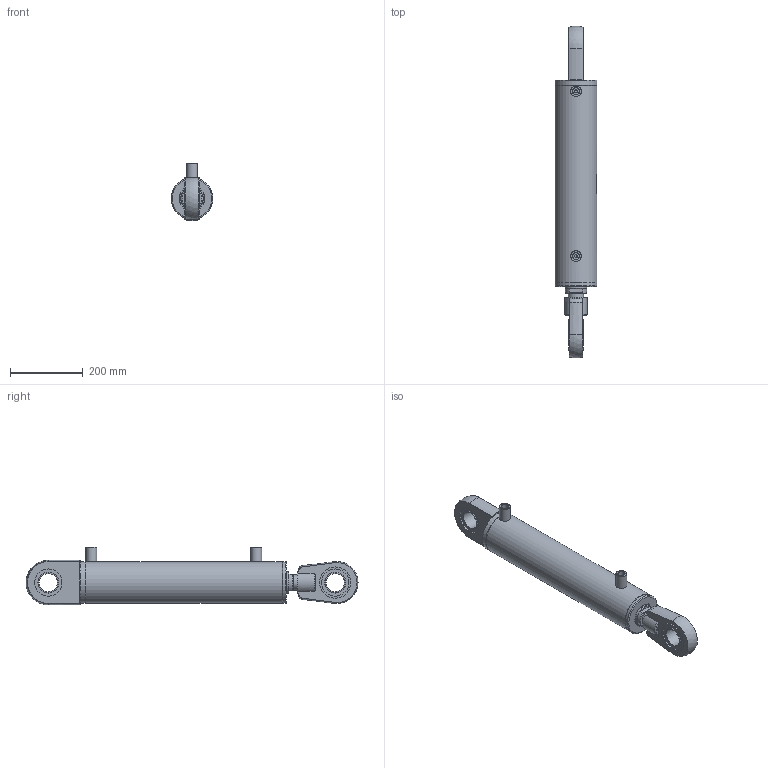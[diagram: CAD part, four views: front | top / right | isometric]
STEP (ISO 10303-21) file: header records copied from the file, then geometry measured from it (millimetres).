
FILE_DESCRIPTION(/* description */ (''),/* implementation_level */ '2;1');
FILE_NAME(/* name */ 'HC_A_100_60_400_AMB_WEB.step',/* time_stamp */ '2023-07-31T14:50:24+03:00',/* author */ (''),/* organization */ (''),/* preprocessor_version */ 'ST-DEVELOPER v20',/* originating_system */ 'Autodesk Translation Framework v12.9.0.99',/* authorisation */ '');
FILE_SCHEMA (('AUTOMOTIVE_DESIGN { 1 0 10303 214 3 1 1 }'));
Length unit declared in the file: millimetre
Products named in the file (20): TRACE_PARTS_MONTAJ; TAK_100_115; TAK_100_115_1; Ø100 x Ø115 _H_BORU; 100X115_H_BORU; Ø60_K_MİL; 60_K_MİL; TDK_100_060; TDK_80_45; K33-060_3; K3-060_3; K06-60X70X5_5X7 (K06_060_5); KO-90X5; Bileşen1; RMK_50; RMV_50; dgihl_50_do; Manşon_1_2; Manşon_1_2_1; MANŞON_1/2
Assembly tree (20 placements, depth 4):
  TRACE_PARTS_MONTAJ
    TAK_100_115
      TAK_100_115_1
    Ø100 x Ø115 _H_BORU
      100X115_H_BORU
    Ø60_K_MİL
      60_K_MİL
    TDK_100_060
      TDK_80_45
      K33-060_3
        K3-060_3
      K06-60X70X5_5X7 (K06_060_5)
      KO-90X5
        Bileşen1
    RMK_50
    RMV_50
      dgihl_50_do
    Manşon_1_2
      MANŞON_1/2
    Manşon_1_2_1
      MANŞON_1/2
Bounding box: 115 x 913.16 x 159 mm (x, y, z)
Volume: 3690294.5 mm3; surface area: 661310.1 mm2
Topology: 11 solids, 11 shells, 761 faces, 1978 edges, 1307 vertices
Faces by surface type: bspline 365, plane 249, cylinder 73, cone 48, torus 18, sphere 8
Full cylindrical faces by diameter (mm): 8 x2, 19 x2, 30 x3, 41.822 x1, 43.376 x1, 44.85 x1, 50 x3, 60 x3, 60.948 x2, 61 x1, 61.6 x1, 62.6 x1, 69.408 x1, 69.425 x1, 70 x1, 70.6 x1, 75 x4, 86 x2, 90 x1, 98 x1, 99 x2, 100 x2, 101 x1, 103.022 x1, 104.822 x1, 115 x3
Entity records: 35397 total; most frequent: CARTESIAN_POINT 18722, ORIENTED_EDGE 3912, DIRECTION 2332, EDGE_CURVE 1956, VERTEX_POINT 1297, LINE 856, VECTOR 856, EDGE_LOOP 847
